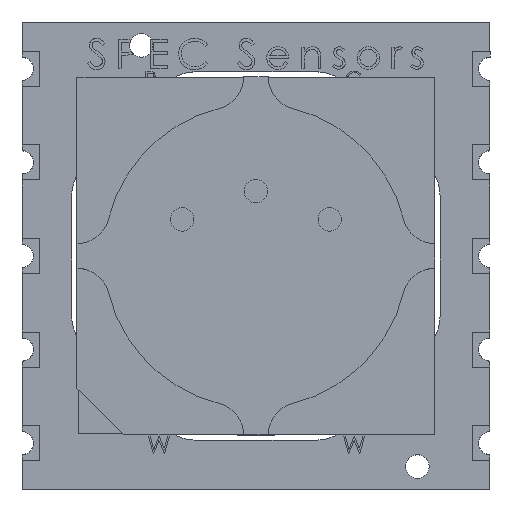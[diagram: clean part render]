
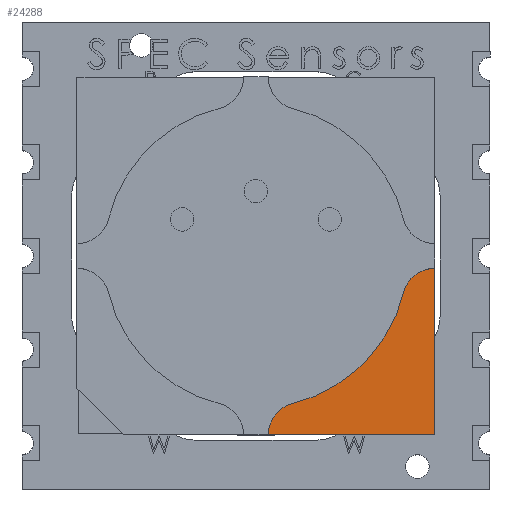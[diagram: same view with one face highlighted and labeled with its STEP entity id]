
A CAD part, top view. The second image highlights one B-rep face of the part: STEP entity #24288.
In plain terms, the highlighted planar face has unit normal (0, 0, 1).
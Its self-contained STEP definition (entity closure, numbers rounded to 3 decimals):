
#451 = CARTESIAN_POINT ( 'NONE',  ( -10.786, 8.433, 0.389 ) ) ;
#607 = EDGE_LOOP ( 'NONE', ( #26170, #3455, #19749, #11894, #6706 ) ) ;
#858 = VERTEX_POINT ( 'NONE', #21119 ) ;
#1399 = DIRECTION ( 'NONE',  ( 0., 0., 1. ) ) ;
#1534 = DIRECTION ( 'NONE',  ( 1., 0., 0. ) ) ;
#1695 = CARTESIAN_POINT ( 'NONE',  ( -12.362, 14.739, 0.389 ) ) ;
#2965 = EDGE_CURVE ( 'NONE', #13968, #16690, #4061, .T. ) ;
#3085 = VECTOR ( 'NONE', #28009, 1000. ) ;
#3132 = CARTESIAN_POINT ( 'NONE',  ( -11.835, 7.089, 0.389 ) ) ;
#3217 = CARTESIAN_POINT ( 'NONE',  ( -4.712, 12.826, 0.389 ) ) ;
#3455 = ORIENTED_EDGE ( 'NONE', *, *, #13026, .F. ) ;
#4061 = LINE ( 'NONE', #17884, #9773 ) ;
#4802 = LINE ( 'NONE', #25486, #3085 ) ;
#5777 = EDGE_CURVE ( 'NONE', #5840, #13968, #4802, .T. ) ;
#5840 = VERTEX_POINT ( 'NONE', #3132 ) ;
#6706 = ORIENTED_EDGE ( 'NONE', *, *, #2965, .T. ) ;
#7110 = EDGE_CURVE ( 'NONE', #858, #16690, #23995, .T. ) ;
#7554 = DIRECTION ( 'NONE',  ( 1., 0., 0. ) ) ;
#7699 = CIRCLE ( 'NONE', #29263, 6.5 ) ;
#9713 = CARTESIAN_POINT ( 'NONE',  ( -4.712, 14.212, 0.389 ) ) ;
#9773 = VECTOR ( 'NONE', #13201, 1000. ) ;
#10139 = CARTESIAN_POINT ( 'NONE',  ( -4.712, 7.089, 0.389 ) ) ;
#10563 = CARTESIAN_POINT ( 'NONE',  ( 0., 0., 0.389 ) ) ;
#11133 = FACE_OUTER_BOUND ( 'NONE', #607, .T. ) ;
#11894 = ORIENTED_EDGE ( 'NONE', *, *, #5777, .T. ) ;
#12042 = DIRECTION ( 'NONE',  ( 0., 0., -1. ) ) ;
#12609 = VERTEX_POINT ( 'NONE', #451 ) ;
#12651 = DIRECTION ( 'NONE',  ( 0., 0., 1. ) ) ;
#13026 = EDGE_CURVE ( 'NONE', #12609, #858, #7699, .T. ) ;
#13201 = DIRECTION ( 'NONE',  ( 0., 1., 0. ) ) ;
#13968 = VERTEX_POINT ( 'NONE', #10139 ) ;
#14588 = CARTESIAN_POINT ( 'NONE',  ( -10.45, 7.089, 0.389 ) ) ;
#16690 = VERTEX_POINT ( 'NONE', #9713 ) ;
#17884 = CARTESIAN_POINT ( 'NONE',  ( -4.712, 22.389, 0.389 ) ) ;
#19174 = DIRECTION ( 'NONE',  ( 1., 0., 0. ) ) ;
#19749 = ORIENTED_EDGE ( 'NONE', *, *, #29409, .F. ) ;
#21119 = CARTESIAN_POINT ( 'NONE',  ( -6.056, 13.162, 0.389 ) ) ;
#21780 = DIRECTION ( 'NONE',  ( 0., 0., -1. ) ) ;
#23995 = CIRCLE ( 'NONE', #28623, 1.385 ) ;
#24119 = DIRECTION ( 'NONE',  ( 1., 0., 0. ) ) ;
#24257 = PLANE ( 'NONE',  #27405 ) ;
#24288 = ADVANCED_FACE ( 'NONE', ( #11133 ), #24257, .T. ) ;
#25115 = AXIS2_PLACEMENT_3D ( 'NONE', #14588, #21780, #19174 ) ;
#25486 = CARTESIAN_POINT ( 'NONE',  ( -18.012, 7.089, 0.389 ) ) ;
#25864 = CIRCLE ( 'NONE', #25115, 1.385 ) ;
#26170 = ORIENTED_EDGE ( 'NONE', *, *, #7110, .F. ) ;
#27405 = AXIS2_PLACEMENT_3D ( 'NONE', #10563, #12651, #1534 ) ;
#28009 = DIRECTION ( 'NONE',  ( 1., 0., 0. ) ) ;
#28623 = AXIS2_PLACEMENT_3D ( 'NONE', #3217, #12042, #7554 ) ;
#29263 = AXIS2_PLACEMENT_3D ( 'NONE', #1695, #1399, #24119 ) ;
#29409 = EDGE_CURVE ( 'NONE', #5840, #12609, #25864, .T. ) ;
